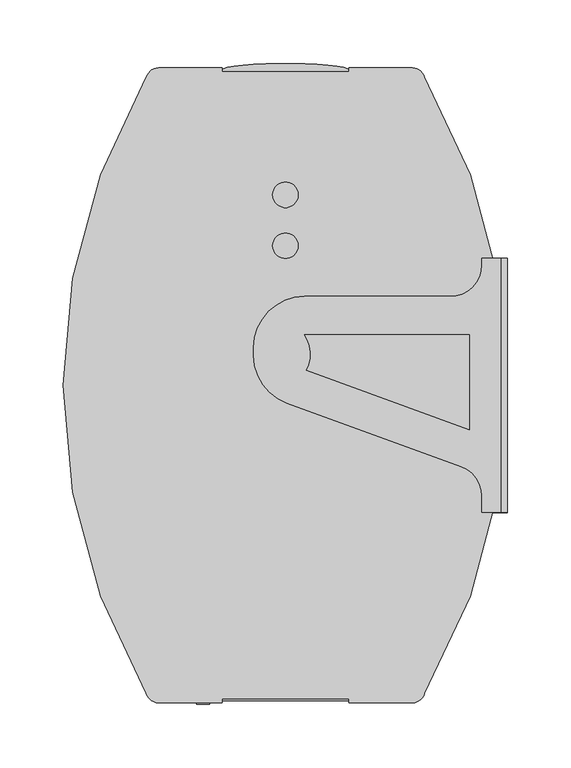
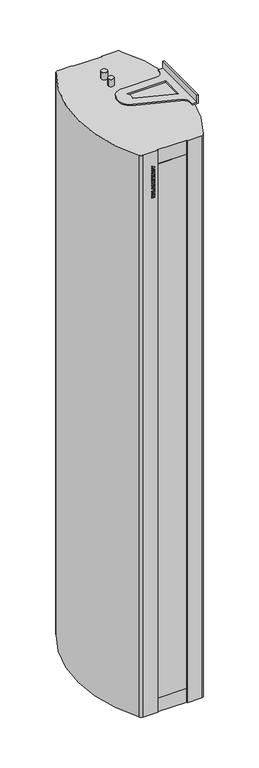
"""IFC4 building model written with IfcOpenShell, lengths in millimetres: proxy geometry, ИЗТТ_Завеса дизайнерская_Водяная : KVC-S20W35-31."""

import ifcopenshell
import ifcopenshell.guid

model = None  # the IFC model being written
_history = None  # IfcOwnerHistory: only IFC2X3 demands one
_inside = {}  # id of a spatial element -> (the spatial element, [elements in it])
_under = {}  # id of a project, library or spatial element -> (it, [spatial elements below it])
_declared = {}  # id of a project -> (the project, [libraries it declares])
_typed = {}  # id of a type object -> (the type object, [elements of that type])
_made_of = {}  # id of a material, layer set ... -> (it, [elements and type objects made of it])


def new_model(schema):
    """Start an empty IFC model of exactly this schema.

    Asked for "IFC4X3", IfcOpenShell would pick the latest addendum, in which some entities
    have other attributes; the version numbers below select the first issue.
    IFC2X3 requires an IfcOwnerHistory on every rooted entity: one is made here for all.
    """
    global model, _history
    if schema == "IFC4X3":
        model = ifcopenshell.file(schema_version=(4, 3, 0, 0))
    else:
        model = ifcopenshell.file(schema=schema)
    _inside.clear()
    _under.clear()
    _declared.clear()
    _typed.clear()
    _made_of.clear()
    _history = None
    if model.schema == "IFC2X3":
        org = make("IfcOrganization", Name="unknown")
        user = make(
            "IfcPersonAndOrganization",
            ThePerson=make("IfcPerson", FamilyName="unknown"),
            TheOrganization=org,
        )
        app = make(
            "IfcApplication",
            ApplicationDeveloper=org,
            Version="unknown",
            ApplicationFullName="unknown",
            ApplicationIdentifier="unknown",
        )
        _history = make(
            "IfcOwnerHistory",
            OwningUser=user,
            OwningApplication=app,
            ChangeAction="ADDED",
            CreationDate=0,
        )
    return model


def make(cls, **values):
    """One entity of the class cls with the attributes given. An attribute that is None is left unset."""
    return model.create_entity(
        cls, **{name: value for name, value in values.items() if value is not None}
    )


def rooted(cls, **values):
    """An entity with a GlobalId (a new one), such as an element, a storey or a relation."""
    return make(cls, GlobalId=ifcopenshell.guid.new(), OwnerHistory=_history, **values)


def si_unit(unit_type, name, prefix=None):
    """IfcSIUnit, for example si_unit("LENGTHUNIT", "METRE", prefix="MILLI")."""
    return make("IfcSIUnit", UnitType=unit_type, Prefix=prefix, Name=name)


def assignment(units):
    """IfcUnitAssignment: the units of a project."""
    return None if units is None else make("IfcUnitAssignment", Units=units)


def point(xyz):
    """IfcCartesianPoint."""
    return None if xyz is None else make("IfcCartesianPoint", Coordinates=xyz)


def direction(xyz):
    """IfcDirection."""
    return None if xyz is None else make("IfcDirection", DirectionRatios=xyz)


def frame(location, z_axis=None, x_axis=None):
    """IfcAxis2Placement3D, a coordinate frame: its origin and axes. An axis left out is left unset."""
    return make(
        "IfcAxis2Placement3D",
        Location=point(location),
        Axis=direction(z_axis),
        RefDirection=direction(x_axis),
    )


def origin():
    """The frame at (0, 0, 0) with its axes left unset."""
    return frame((0.0, 0.0, 0.0))


def place(relative_to, where):
    """IfcLocalPlacement: puts the frame where relative to a parent placement (None: the world)."""
    return make(
        "IfcLocalPlacement", PlacementRelTo=relative_to, RelativePlacement=where
    )


def context(
    kind, dimensions, precision=None, world=None, true_north=None, identifier=None
):
    """IfcGeometricRepresentationContext, for example the 3D "Model" context."""
    return make(
        "IfcGeometricRepresentationContext",
        ContextIdentifier=identifier,
        ContextType=kind,
        CoordinateSpaceDimension=dimensions,
        Precision=precision,
        WorldCoordinateSystem=world,
        TrueNorth=true_north,
    )


def project(units=None, contexts=None):
    """IfcProject with its units and contexts."""
    return rooted(
        "IfcProject",
        Name="project",
        RepresentationContexts=contexts,
        UnitsInContext=assignment(units),
    )


def spatial(cls, under=None, at=None, **own):
    """A site, building, storey or space (cls), placed at a placement, below another one or the project."""
    s = rooted(cls, ObjectPlacement=at, **own)
    if under is not None:
        _under.setdefault(under.id(), (under, []))[1].append(s)
    return s


def polyline(points):
    """IfcPolyline through the points."""
    return make("IfcPolyline", Points=[point(p) for p in points])


def circle_curve(where, radius):
    """IfcCircle in the frame where."""
    return make("IfcCircle", Position=where, Radius=radius)


def ellipse_curve(where, semi_axis1, semi_axis2):
    """IfcEllipse in the frame where."""
    return make(
        "IfcEllipse", Position=where, SemiAxis1=semi_axis1, SemiAxis2=semi_axis2
    )


def trimmed(basis, trim1, trim2, sense, master):
    """IfcTrimmedCurve: the piece of a basis curve between two trims."""
    return make(
        "IfcTrimmedCurve",
        BasisCurve=basis,
        Trim1=trim1,
        Trim2=trim2,
        SenseAgreement=sense,
        MasterRepresentation=master,
    )


def outline(outer, holes=None, kind="AREA"):
    """IfcArbitraryClosedProfileDef: a profile drawn as a closed curve; with holes, ...WithVoids."""
    if holes is None:
        return make("IfcArbitraryClosedProfileDef", ProfileType=kind, OuterCurve=outer)
    return make(
        "IfcArbitraryProfileDefWithVoids",
        ProfileType=kind,
        OuterCurve=outer,
        InnerCurves=holes,
    )


def extrude(swept, where, along, depth):
    """IfcExtrudedAreaSolid: the profile swept, set in the frame where, extruded along a direction by depth."""
    return make(
        "IfcExtrudedAreaSolid",
        SweptArea=swept,
        Position=where,
        ExtrudedDirection=direction(along),
        Depth=depth,
    )


def faces_of(points, faces, orient=None, outer=None):
    """IfcFace entities. A face is a list of loops; a loop is a list of indices into points, from 0.

    orient and outer hold one flag for each loop. By default every Orientation is true, the
    first loop of a face is its IfcFaceOuterBound and the others are IfcFaceBound.
    """
    made = []
    for i, loops in enumerate(faces):
        bounds = []
        for j, loop in enumerate(loops):
            is_outer = j == 0 if outer is None else outer[i][j]
            bounds.append(
                make(
                    "IfcFaceOuterBound" if is_outer else "IfcFaceBound",
                    Bound=make("IfcPolyLoop", Polygon=[points[k] for k in loop]),
                    Orientation=True if orient is None else orient[i][j],
                )
            )
        made.append(make("IfcFace", Bounds=bounds))
    return made


def faceted_brep(points, faces, orient=None, outer=None, voids=None):
    """IfcFacetedBrep: a solid bounded by flat faces; with voids (closed shells), ...WithVoids."""
    shared = [point(p) for p in points]
    hull = make("IfcClosedShell", CfsFaces=faces_of(shared, faces, orient, outer))
    if voids is None:
        return make("IfcFacetedBrep", Outer=hull)
    return make(
        "IfcFacetedBrepWithVoids",
        Outer=hull,
        Voids=[
            make(cls, CfsFaces=faces_of(shared, fs, o, b)) for cls, fs, o, b in voids
        ],
    )


def shape(context_of_items, identifier, shape_type, items):
    """IfcShapeRepresentation: the items that make up one representation, for example the "Body"."""
    return make(
        "IfcShapeRepresentation",
        ContextOfItems=context_of_items,
        RepresentationIdentifier=identifier,
        RepresentationType=shape_type,
        Items=items,
    )


def source(mapping_origin, context_of_items, identifier, shape_type, items):
    """IfcRepresentationMap: a shape defined once, which mapped items show again and again."""
    return make(
        "IfcRepresentationMap",
        MappingOrigin=mapping_origin,
        MappedRepresentation=shape(context_of_items, identifier, shape_type, items),
    )


def transform(
    local_origin,
    x_axis=None,
    y_axis=None,
    z_axis=None,
    scale=None,
    scale2=None,
    scale3=None,
    uniform=True,
):
    """IfcCartesianTransformationOperator3D, or its non-uniform kind. x_axis, y_axis, z_axis: its Axis1, 2, 3."""
    if uniform:
        return make(
            "IfcCartesianTransformationOperator3D",
            Axis1=direction(x_axis),
            Axis2=direction(y_axis),
            LocalOrigin=point(local_origin),
            Scale=scale,
            Axis3=direction(z_axis),
        )
    return make(
        "IfcCartesianTransformationOperator3DnonUniform",
        Axis1=direction(x_axis),
        Axis2=direction(y_axis),
        LocalOrigin=point(local_origin),
        Scale=scale,
        Axis3=direction(z_axis),
        Scale2=scale2,
        Scale3=scale3,
    )


def mapped(mapping_source, mapping_target):
    """IfcMappedItem: shows the shape of a source again, moved by a transform."""
    return make(
        "IfcMappedItem", MappingSource=mapping_source, MappingTarget=mapping_target
    )


def made_of(thing, what):
    """Note that an element or type object is made of a material, layer set ...; save() writes the relation."""
    if what is not None:
        _made_of.setdefault(what.id(), (what, []))[1].append(thing)
    return thing


def element(
    cls,
    number,
    at=None,
    inside=None,
    cuts=None,
    type_object=None,
    material=None,
    context=None,
    identifier="Body",
    shape_type=None,
    held_by="IfcProductDefinitionShape",
    body=None,
    shapes=None,
    **own,
):
    """One element of the class cls, such as IfcWall. Its Tag is "e" and its number.

    at: its placement. inside: the storey or other place that contains it. cuts: it is an
    opening in that element (IfcRelVoidsElement). A single representation is given by context,
    identifier, shape_type and body (its items); several are given by shapes. held_by: the class
    of the entity that holds the representations. save() writes the other relations.
    """
    e = rooted(cls, Tag="e%d" % number, ObjectPlacement=at, **own)
    if body is not None:
        shapes = [shape(context, identifier, shape_type, body)]
    if shapes is not None:
        e.Representation = make(held_by, Representations=shapes)
    if inside is not None:
        _inside.setdefault(inside.id(), (inside, []))[1].append(e)
    if cuts is not None:
        rooted(
            "IfcRelVoidsElement", RelatingBuildingElement=cuts, RelatedOpeningElement=e
        )
    if type_object is not None:
        _typed.setdefault(type_object.id(), (type_object, []))[1].append(e)
    return made_of(e, material)


def aggregate(whole, parts):
    """IfcRelAggregates: a whole, such as a stair, and the parts it consists of."""
    return rooted("IfcRelAggregates", RelatingObject=whole, RelatedObjects=parts)


def save(model, path):
    """Write the relations noted so far, then the file.

    IfcRelAggregates (storeys below a building ...), IfcRelContainedInSpatialStructure (elements
    in a storey), IfcRelDefinesByType, IfcRelAssociatesMaterial and IfcRelDeclares: one each for
    every whole, place, type object, material and project.
    """
    for whole, parts in _under.values():
        aggregate(whole, parts)
    for where, things in _inside.values():
        rooted(
            "IfcRelContainedInSpatialStructure",
            RelatedElements=things,
            RelatingStructure=where,
        )
    for kind, things in _typed.values():
        rooted("IfcRelDefinesByType", RelatedObjects=things, RelatingType=kind)
    for what, things in _made_of.values():
        rooted("IfcRelAssociatesMaterial", RelatedObjects=things, RelatingMaterial=what)
    for by, libraries in _declared.values():
        rooted("IfcRelDeclares", RelatingContext=by, RelatedDefinitions=libraries)
    model.write(path)


def plane_surface(at):
    """IfcPlane: the flat surface through the origin of the frame at, square to its z axis."""
    return make("IfcPlane", Position=at)


def cylinder_surface(at, radius):
    """IfcCylindricalSurface: all points at the distance radius from the z axis of the frame at."""
    return make("IfcCylindricalSurface", Position=at, Radius=radius)


def revolved_surface(curve, axis_point, axis_direction):
    """IfcSurfaceOfRevolution: the curve turned about the line through axis_point along axis_direction."""
    return make(
        "IfcSurfaceOfRevolution",
        SweptCurve=make("IfcArbitraryOpenProfileDef", ProfileType="CURVE", Curve=curve),
        AxisPosition=make("IfcAxis1Placement", Location=point(axis_point), Axis=direction(axis_direction)),
    )


def extruded_surface(curve, direction_of_extrusion, depth):
    """IfcSurfaceOfLinearExtrusion: the curve pushed along a direction by depth."""
    return make(
        "IfcSurfaceOfLinearExtrusion",
        SweptCurve=make("IfcArbitraryOpenProfileDef", ProfileType="CURVE", Curve=curve),
        ExtrudedDirection=direction(direction_of_extrusion),
        Depth=depth,
    )


def advanced_brep(points, edges, surfaces, faces):
    """IfcAdvancedBrep: a solid bounded by faces that lie on surfaces and meet in shared edges.

    An edge is (start, end): straight between two places in points (the first is 0);
    or (start, end, curve); or (start, end, curve, False) where it runs against its curve.
    A face is (place in surfaces, loops), or (place, loops, False) where it looks against
    its surface's normal. A loop lists edges by number (the first is 1), with a minus sign
    where the edge is run from its end to its start. The first loop is the outer one.
    """
    corners = [point(p) for p in points]
    vertices = [make("IfcVertexPoint", VertexGeometry=c) for c in corners]
    made = []
    for start, end, *more in edges:
        made.append(
            make(
                "IfcEdgeCurve",
                EdgeStart=vertices[start],
                EdgeEnd=vertices[end],
                EdgeGeometry=more[0] if more else make("IfcPolyline", Points=[corners[start], corners[end]]),
                SameSense=more[1] if len(more) > 1 else True,
            )
        )
    hull = []
    for where, loops, *sense in faces:
        bounds = []
        for j, loop in enumerate(loops):
            ring = [make("IfcOrientedEdge", EdgeElement=made[abs(k) - 1], Orientation=k > 0) for k in loop]
            bounds.append(
                make(
                    "IfcFaceOuterBound" if j == 0 else "IfcFaceBound",
                    Bound=make("IfcEdgeLoop", EdgeList=ring),
                    Orientation=True,
                )
            )
        hull.append(make("IfcAdvancedFace", Bounds=bounds, FaceSurface=surfaces[where], SameSense=sense[0] if sense else True))
    return make("IfcAdvancedBrep", Outer=make("IfcClosedShell", CfsFaces=hull))


def mechanical_equipment_543ff3b5(model_context):
    return source(origin(), model_context, "Body", "SolidModel", [
        advanced_brep(
        [(155.0, 100.0, -5.0), (170.0, 100.0, -5.0), (170.0, -100.0, -5.0), (155.0, -100.0, -5.0), (155.0, -87.5051885, -5.0), (138.5505036, -64.0128729, -5.0), (1.3191943, -14.0647611, -5.0), (-25.0, 23.5229437, -5.0), (-25.0, 30.0, -5.0), (15.0, 70.0, -5.0), (130.0, 70.0, -5.0), (155.0, 95.0, -5.0), (145.0, -34.8821335, -5.0), (145.0, 40.0, -5.0), (15.0, 40.0, -5.0), (16.5981063, 11.8523338, -5.0), (155.0, 100.0, 0.0), (155.0, 95.0, 0.0), (130.0, 70.0, 0.0), (15.0, 70.0, 0.0), (-25.0, 30.0, 0.0), (-25.0, 23.5229437, 0.0), (1.3191943, -14.0647611, 0.0), (138.5505036, -64.0128729, 0.0), (155.0, -87.5051885, 0.0), (155.0, -100.0, 0.0), (175.0, -100.0, 0.0), (175.0, 100.0, 0.0), (145.0, -34.8821335, 0.0), (16.5981063, 11.8523338, 0.0), (15.0, 40.0, 0.0), (145.0, 40.0, 0.0), (175.0, 100.0, -30.0), (170.0, 100.0, -30.0), (170.0, -100.0, -30.0), (175.0, -100.0, -30.0)],
        [
            (0, 1),
            (1, 2),
            (2, 3),
            (3, 4),
            (4, 5, circle_curve(frame((130.0, -87.5051885, -5.0), z_axis=(0.0, 0.0, 1.0), x_axis=(1.0, 0.0, 0.0)), 25.0)),
            (5, 6),
            (6, 7, circle_curve(frame((15.0, 23.5229437, -5.0), z_axis=(0.0, 0.0, -1.0), x_axis=(1.0, 0.0, 0.0)), 40.0)),
            (7, 8),
            (8, 9, circle_curve(frame((15.0, 30.0, -5.0), z_axis=(0.0, 0.0, -1.0), x_axis=(1.0, 0.0, 0.0)), 40.0)),
            (9, 10),
            (10, 11, circle_curve(frame((130.0, 95.0, -5.0), z_axis=(0.0, 0.0, 1.0), x_axis=(1.0, 0.0, 0.0)), 25.0)),
            (11, 0),
            (12, 13),
            (13, 14),
            (14, 15, circle_curve(frame((-7.1937545, 24.6207318, -5.0), z_axis=(0.0, 0.0, -1.0), x_axis=(1.0, 0.0, 0.0)), 27.0015672)),
            (15, 12),
            (16, 17),
            (17, 18, circle_curve(frame((130.0, 95.0, 0.0), z_axis=(0.0, 0.0, -1.0), x_axis=(1.0, 0.0, 0.0)), 25.0)),
            (18, 19),
            (19, 20, circle_curve(frame((15.0, 30.0, 0.0), z_axis=(0.0, 0.0, 1.0), x_axis=(1.0, 0.0, 0.0)), 40.0)),
            (20, 21),
            (21, 22, circle_curve(frame((15.0, 23.5229437, 0.0), z_axis=(0.0, 0.0, 1.0), x_axis=(1.0, 0.0, 0.0)), 40.0)),
            (22, 23),
            (23, 24, circle_curve(frame((130.0, -87.5051885, 0.0), z_axis=(0.0, 0.0, -1.0), x_axis=(1.0, 0.0, 0.0)), 25.0)),
            (24, 25),
            (25, 26),
            (26, 27),
            (27, 16),
            (28, 29),
            (29, 30, circle_curve(frame((-7.1937545, 24.6207318, 0.0), z_axis=(0.0, 0.0, 1.0), x_axis=(1.0, 0.0, 0.0)), 27.0015672)),
            (30, 31),
            (31, 28),
            (27, 32),
            (32, 33),
            (33, 1),
            (0, 16),
            (7, 21),
            (20, 8),
            (2, 34),
            (34, 35),
            (35, 26),
            (25, 3),
            (35, 32),
            (11, 17),
            (10, 18),
            (9, 19),
            (6, 22),
            (5, 23),
            (4, 24),
            (15, 29),
            (28, 12),
            (14, 30),
            (13, 31),
            (34, 33),
        ],
        [
            plane_surface(frame((-25.0, 100.0, -5.0), z_axis=(0.0, 0.0, -1.0), x_axis=(-1.0, 0.0, 0.0))),
            plane_surface(frame((-25.0, 100.0, 0.0), z_axis=(0.0, 0.0, 1.0), x_axis=(1.0, 0.0, 0.0))),
            plane_surface(frame((175.0, 100.0, -5.0), z_axis=(0.0, 1.0, 0.0), x_axis=(0.0, 0.0, 1.0))),
            plane_surface(frame((-25.0, 30.0, -5.0), z_axis=(-1.0, 0.0, 0.0), x_axis=(0.0, 0.0, 1.0))),
            plane_surface(frame((155.0, -100.0, -5.0), z_axis=(0.0, -1.0, 0.0), x_axis=(0.0, 0.0, 1.0))),
            plane_surface(frame((175.0, -100.0, -5.0), z_axis=(1.0, 0.0, 0.0), x_axis=(0.0, 0.0, 1.0))),
            plane_surface(frame((155.0, 100.0, -5.0), z_axis=(-1.0, 0.0, 0.0), x_axis=(0.0, 0.0, 1.0))),
            revolved_surface(polyline([(155.0, 95.0, 0.0), (155.0, 95.0, -5.0)]), (130.0, 95.0, 0.0), (0.0, 0.0, 1.0)),
            plane_surface(frame((130.0, 70.0, -5.0), z_axis=(0.0, 1.0, 0.0), x_axis=(0.0, 0.0, 1.0))),
            cylinder_surface(frame((15.0, 30.0, 0.0), z_axis=(0.0, 0.0, -1.0), x_axis=(1.0, 0.0, 0.0)), 40.0),
            cylinder_surface(frame((15.0, 23.5229437, 0.0), z_axis=(0.0, 0.0, -1.0), x_axis=(1.0, 0.0, 0.0)), 40.0),
            plane_surface(frame((1.3191943, -14.0647611, -5.0), z_axis=(-0.3420201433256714, -0.9396926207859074, 0.0), x_axis=(0.0, 0.0, 1.0))),
            revolved_surface(polyline([(155.0, -87.5051885, 0.0), (155.0, -87.5051885, -5.0)]), (130.0, -87.5051885, 0.0), (0.0, 0.0, 1.0)),
            plane_surface(frame((155.0, -87.5051885, -5.0), z_axis=(-1.0, 0.0, 0.0), x_axis=(0.0, 0.0, 1.0))),
            plane_surface(frame((145.0, -34.8821335, -5.0), z_axis=(0.3420201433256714, 0.9396926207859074, 0.0), x_axis=(0.0, 0.0, 1.0))),
            cylinder_surface(frame((-7.1937545, 24.6207318, 0.0), z_axis=(0.0, 0.0, -1.0), x_axis=(1.0, 0.0, 0.0)), 27.0015672),
            plane_surface(frame((15.0, 40.0, -5.0), z_axis=(0.0, -1.0, 0.0), x_axis=(0.0, 0.0, 1.0))),
            plane_surface(frame((145.0, 40.0, -5.0), z_axis=(-1.0, 0.0, 0.0), x_axis=(0.0, 0.0, 1.0))),
            plane_surface(frame((170.0, 126.8049179, -30.0), z_axis=(0.0, 0.0, -1.0), x_axis=(0.0, -1.0, 0.0))),
            plane_surface(frame((170.0, 100.0, -30.0), z_axis=(-1.0, 0.0, 0.0), x_axis=(0.0, 0.0, 1.0))),
        ],
        [
            (0, [[1, 2, 3, 4, 5, 6, 7, 8, 9, 10, 11, 12], [13, 14, 15, 16]]),
            (1, [[17, 18, 19, 20, 21, 22, 23, 24, 25, 26, 27, 28], [29, 30, 31, 32]]),
            (2, [[-28, 33, 34, 35, -1, 36]]),
            (3, [[37, -21, 38, -8]]),
            (4, [[-3, 39, 40, 41, -26, 42]]),
            (5, [[43, -33, -27, -41]]),
            (6, [[44, -17, -36, -12]]),
            (7, [[45, -18, -44, -11]]),
            (8, [[46, -19, -45, -10]]),
            (9, [[-38, -20, -46, -9]]),
            (10, [[47, -22, -37, -7]]),
            (11, [[48, -23, -47, -6]]),
            (12, [[49, -24, -48, -5]]),
            (13, [[-42, -25, -49, -4]]),
            (14, [[50, -29, 51, -16]]),
            (15, [[52, -30, -50, -15]]),
            (16, [[53, -31, -52, -14]]),
            (17, [[-51, -32, -53, -13]]),
            (18, [[-34, -43, -40, 54]]),
            (19, [[-39, -2, -35, -54]]),
        ],
    ),
        advanced_brep(
        [(155.0, 100.0, 2019.0), (155.0, 95.0, 2019.0), (130.0, 70.0, 2019.0), (15.0, 70.0, 2019.0), (-25.0, 30.0, 2019.0), (-25.0, 23.5229437, 2019.0), (1.3191943, -14.0647611, 2019.0), (138.5505036, -64.0128729, 2019.0), (155.0, -87.5051885, 2019.0), (155.0, -100.0, 2019.0), (170.0, -100.0, 2019.0), (170.0, 100.0, 2019.0), (145.0, -34.8821335, 2019.0), (16.5981063, 11.8523338, 2019.0), (15.0, 40.0, 2019.0), (145.0, 40.0, 2019.0), (155.0, 100.0, 2014.0), (175.0, 100.0, 2014.0), (175.0, -100.0, 2014.0), (155.0, -100.0, 2014.0), (155.0, -87.5051885, 2014.0), (138.5505036, -64.0128729, 2014.0), (1.3191943, -14.0647611, 2014.0), (-25.0, 23.5229437, 2014.0), (-25.0, 30.0, 2014.0), (15.0, 70.0, 2014.0), (130.0, 70.0, 2014.0), (155.0, 95.0, 2014.0), (145.0, -34.8821335, 2014.0), (145.0, 40.0, 2014.0), (15.0, 40.0, 2014.0), (16.5981063, 11.8523338, 2014.0), (170.0, 100.0, 2044.0), (175.0, 100.0, 2044.0), (175.0, -100.0, 2044.0), (170.0, -100.0, 2044.0)],
        [
            (0, 1),
            (1, 2, circle_curve(frame((130.0, 95.0, 2019.0), z_axis=(0.0, 0.0, -1.0), x_axis=(1.0, 0.0, 0.0)), 25.0)),
            (2, 3),
            (3, 4, circle_curve(frame((15.0, 30.0, 2019.0), z_axis=(0.0, 0.0, 1.0), x_axis=(1.0, 0.0, 0.0)), 40.0)),
            (4, 5),
            (5, 6, circle_curve(frame((15.0, 23.5229437, 2019.0), z_axis=(0.0, 0.0, 1.0), x_axis=(1.0, 0.0, 0.0)), 40.0)),
            (6, 7),
            (7, 8, circle_curve(frame((130.0, -87.5051885, 2019.0), z_axis=(0.0, 0.0, -1.0), x_axis=(1.0, 0.0, 0.0)), 25.0)),
            (8, 9),
            (9, 10),
            (10, 11),
            (11, 0),
            (12, 13),
            (13, 14, circle_curve(frame((-7.1937545, 24.6207318, 2019.0), z_axis=(0.0, 0.0, 1.0), x_axis=(1.0, 0.0, 0.0)), 27.0015672)),
            (14, 15),
            (15, 12),
            (16, 17),
            (17, 18),
            (18, 19),
            (19, 20),
            (20, 21, circle_curve(frame((130.0, -87.5051885, 2014.0), z_axis=(0.0, 0.0, 1.0), x_axis=(1.0, 0.0, 0.0)), 25.0)),
            (21, 22),
            (22, 23, circle_curve(frame((15.0, 23.5229437, 2014.0), z_axis=(0.0, 0.0, -1.0), x_axis=(1.0, 0.0, 0.0)), 40.0)),
            (23, 24),
            (24, 25, circle_curve(frame((15.0, 30.0, 2014.0), z_axis=(0.0, 0.0, -1.0), x_axis=(1.0, 0.0, 0.0)), 40.0)),
            (25, 26),
            (26, 27, circle_curve(frame((130.0, 95.0, 2014.0), z_axis=(0.0, 0.0, 1.0), x_axis=(1.0, 0.0, 0.0)), 25.0)),
            (27, 16),
            (28, 29),
            (29, 30),
            (30, 31, circle_curve(frame((-7.1937545, 24.6207318, 2014.0), z_axis=(0.0, 0.0, -1.0), x_axis=(1.0, 0.0, 0.0)), 27.0015672)),
            (31, 28),
            (16, 0),
            (11, 32),
            (32, 33),
            (33, 17),
            (4, 24),
            (23, 5),
            (9, 19),
            (18, 34),
            (34, 35),
            (35, 10),
            (33, 34),
            (27, 1),
            (26, 2),
            (25, 3),
            (22, 6),
            (21, 7),
            (20, 8),
            (12, 28),
            (31, 13),
            (30, 14),
            (29, 15),
            (32, 35),
        ],
        [
            plane_surface(frame((-25.0, 100.0, 2019.0), z_axis=(0.0, 0.0, 1.0), x_axis=(-1.0, 0.0, 0.0))),
            plane_surface(frame((-25.0, 100.0, 2014.0), z_axis=(0.0, 0.0, -1.0), x_axis=(1.0, 0.0, 0.0))),
            plane_surface(frame((175.0, 100.0, 2019.0), z_axis=(0.0, 1.0, 0.0), x_axis=(0.0, 0.0, -1.0))),
            plane_surface(frame((-25.0, 30.0, 2019.0), z_axis=(-1.0, 0.0, 0.0), x_axis=(0.0, 0.0, -1.0))),
            plane_surface(frame((155.0, -100.0, 2019.0), z_axis=(0.0, -1.0, 0.0), x_axis=(0.0, 0.0, -1.0))),
            plane_surface(frame((175.0, -100.0, 2019.0), z_axis=(1.0, 0.0, 0.0), x_axis=(0.0, 0.0, -1.0))),
            plane_surface(frame((155.0, 100.0, 2019.0), z_axis=(-1.0, 0.0, 0.0), x_axis=(0.0, 0.0, -1.0))),
            revolved_surface(polyline([(155.0, 95.0, 2014.0), (155.0, 95.0, 2019.0)]), (130.0, 95.0, 2014.0), (0.0, 0.0, -1.0)),
            plane_surface(frame((130.0, 70.0, 2019.0), z_axis=(0.0, 1.0, 0.0), x_axis=(0.0, 0.0, -1.0))),
            cylinder_surface(frame((15.0, 30.0, 2014.0), z_axis=(0.0, 0.0, 1.0), x_axis=(1.0, 0.0, 0.0)), 40.0),
            cylinder_surface(frame((15.0, 23.5229437, 2014.0), z_axis=(0.0, 0.0, 1.0), x_axis=(1.0, 0.0, 0.0)), 40.0),
            plane_surface(frame((1.3191943, -14.0647611, 2019.0), z_axis=(-0.3420201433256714, -0.9396926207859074, 0.0), x_axis=(0.0, 0.0, -1.0))),
            revolved_surface(polyline([(155.0, -87.5051885, 2014.0), (155.0, -87.5051885, 2019.0)]), (130.0, -87.5051885, 2014.0), (0.0, 0.0, -1.0)),
            plane_surface(frame((155.0, -87.5051885, 2019.0), z_axis=(-1.0, 0.0, 0.0), x_axis=(0.0, 0.0, -1.0))),
            plane_surface(frame((145.0, -34.8821335, 2019.0), z_axis=(0.3420201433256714, 0.9396926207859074, 0.0), x_axis=(0.0, 0.0, -1.0))),
            cylinder_surface(frame((-7.1937545, 24.6207318, 2014.0), z_axis=(0.0, 0.0, 1.0), x_axis=(1.0, 0.0, 0.0)), 27.0015672),
            plane_surface(frame((15.0, 40.0, 2019.0), z_axis=(0.0, -1.0, 0.0), x_axis=(0.0, 0.0, -1.0))),
            plane_surface(frame((145.0, 40.0, 2019.0), z_axis=(-1.0, 0.0, 0.0), x_axis=(0.0, 0.0, -1.0))),
            plane_surface(frame((170.0, 126.8049179, 2044.0), z_axis=(0.0, 0.0, 1.0), x_axis=(0.0, -1.0, 0.0))),
            plane_surface(frame((170.0, 100.0, 2044.0), z_axis=(-1.0, 0.0, 0.0), x_axis=(0.0, 0.0, -1.0))),
        ],
        [
            (0, [[1, 2, 3, 4, 5, 6, 7, 8, 9, 10, 11, 12], [13, 14, 15, 16]]),
            (1, [[17, 18, 19, 20, 21, 22, 23, 24, 25, 26, 27, 28], [29, 30, 31, 32]]),
            (2, [[33, -12, 34, 35, 36, -17]]),
            (3, [[-5, 37, -24, 38]]),
            (4, [[39, -19, 40, 41, 42, -10]]),
            (5, [[-40, -18, -36, 43]]),
            (6, [[-1, -33, -28, 44]]),
            (7, [[-2, -44, -27, 45]]),
            (8, [[-3, -45, -26, 46]]),
            (9, [[-4, -46, -25, -37]]),
            (10, [[-6, -38, -23, 47]]),
            (11, [[-7, -47, -22, 48]]),
            (12, [[-8, -48, -21, 49]]),
            (13, [[-9, -49, -20, -39]]),
            (14, [[-13, 50, -32, 51]]),
            (15, [[-14, -51, -31, 52]]),
            (16, [[-15, -52, -30, 53]]),
            (17, [[-16, -53, -29, -50]]),
            (18, [[54, -41, -43, -35]]),
            (19, [[-54, -34, -11, -42]]),
        ],
    ),
        extrude(outline(polyline([(1850.0784314, -70.0), (1850.0784314, -60.0), (1853.2156863, -60.0), (1853.2156863, -61.7647059), (1854.9865196, -63.7745098), (1856.8186275, -60.0), (1860.6666667, -60.0), (1857.192402, -66.2775735), (1860.4705882, -70.0), (1856.1997549, -70.0), (1853.2156863, -66.2224265), (1853.2156863, -70.0), (1850.0784314, -70.0)])), frame((0.0, -251.0, 0.0), z_axis=(0.0, 1.0, 0.0), x_axis=(0.0, 0.0, 1.0)), (0.0, 0.0, 1.0), 1.0),
        extrude(outline(polyline([(1867.6642157, -61.5686275), (1868.1176471, -60.0), (1871.4509804, -60.0), (1868.0778186, -70.0), (1864.0398284, -70.0), (1860.6666667, -60.0), (1864.0, -60.0), (1864.4319853, -61.5686275), (1867.6642157, -61.5686275)]), holes=[polyline([(1867.0698529, -63.9215686), (1865.0814951, -63.9215686), (1866.0588235, -67.4540441), (1867.0698529, -63.9215686)])]), frame((0.0, -251.0, 0.0), z_axis=(0.0, 1.0, 0.0), x_axis=(0.0, 0.0, 1.0)), (0.0, 0.0, 1.0), 1.0),
        extrude(outline(polyline([(1872.4313725, -70.0), (1872.4313725, -60.0), (1880.2745098, -60.0), (1880.2745098, -62.3529412), (1875.5686275, -62.3529412), (1875.5686275, -70.0), (1872.4313725, -70.0)])), frame((0.0, -251.0, 0.0), z_axis=(0.0, 1.0, 0.0), x_axis=(0.0, 0.0, 1.0)), (0.0, 0.0, 1.0), 1.0),
        extrude(outline(polyline([(1887.6642157, -61.5686275), (1888.1176471, -60.0), (1891.4509804, -60.0), (1888.0778186, -70.0), (1884.0398284, -70.0), (1880.6666667, -60.0), (1884.0, -60.0), (1884.4319853, -61.5686275), (1887.6642157, -61.5686275)]), holes=[polyline([(1887.0698529, -63.9215686), (1885.0814951, -63.9215686), (1886.0588235, -67.4540441), (1887.0698529, -63.9215686)])]), frame((0.0, -251.0, 0.0), z_axis=(0.0, 1.0, 0.0), x_axis=(0.0, 0.0, 1.0)), (0.0, 0.0, 1.0), 1.0),
        extrude(outline(polyline([(1891.8431373, -63.3394608), (1892.9491422, -60.8026961), (1896.4601716, -59.8039216), (1898.8560049, -60.2297794), (1900.3342525, -61.4813113), (1900.8627451, -63.28125), (1900.4675245, -64.7870711), (1899.2022059, -65.9129902), (1896.3223039, -66.8106618), (1896.1905637, -68.4313725), (1896.9641544, -68.1050858), (1897.3333333, -67.0588235), (1900.4705882, -67.2395833), (1899.2925858, -69.4883578), (1896.4172794, -70.1960784), (1893.9969363, -69.8039216), (1892.6749387, -68.7285539), (1892.2352941, -67.276348), (1893.1023284, -65.3492647), (1895.9761029, -64.1237745), (1897.7254902, -62.8186275), (1897.4114583, -62.0818015), (1896.5183824, -61.7647059), (1895.3204657, -62.3958333), (1894.9803922, -63.5294118), (1891.8431373, -63.3394608)])), frame((0.0, -251.0, 0.0), z_axis=(0.0, 1.0, 0.0), x_axis=(0.0, 0.0, 1.0)), (0.0, 0.0, 1.0), 1.0),
        extrude(outline(polyline([(1902.4313725, -70.0), (1902.4313725, -60.0), (1905.5686275, -60.0), (1905.5686275, -64.1176471), (1908.9019608, -64.1176471), (1908.9019608, -60.0), (1912.0392157, -60.0), (1912.0392157, -70.0), (1908.9019608, -70.0), (1908.9019608, -66.4705882), (1905.5686275, -66.4705882), (1905.5686275, -70.0), (1902.4313725, -70.0)])), frame((0.0, -251.0, 0.0), z_axis=(0.0, 1.0, 0.0), x_axis=(0.0, 0.0, 1.0)), (0.0, 0.0, 1.0), 1.0),
        extrude(outline(polyline([(1914.0, -70.0), (1914.0, -60.0), (1916.9411765, -60.0), (1916.9411765, -65.4901961), (1920.6666667, -60.0), (1923.6078431, -60.0), (1923.6078431, -70.0), (1920.6666667, -70.0), (1920.6666667, -64.4730392), (1916.9197304, -70.0), (1914.0, -70.0)])), frame((0.0, -251.0, 0.0), z_axis=(0.0, 1.0, 0.0), x_axis=(0.0, 0.0, 1.0)), (0.0, 0.0, 1.0), 1.0),
        extrude(outline(polyline([(-60.0, -251.0), (-70.0, -251.0), (-70.0, -250.0), (-60.0, -250.0), (-60.0, -251.0)])), frame((0.0, 0.0, 1925.7647059), z_axis=(0.0, 0.0, 1.0), x_axis=(1.0, 0.0, 0.0)), (0.0, 0.0, 1.0), 3.1372549),
        extrude(outline(polyline([(1931.0588235, -70.0), (1931.0588235, -60.0), (1934.1960784, -60.0), (1934.1960784, -61.7647059), (1935.9669118, -63.7745098), (1937.7990196, -60.0), (1941.6470588, -60.0), (1938.1727941, -66.2775735), (1941.4509804, -70.0), (1937.1801471, -70.0), (1934.1960784, -66.2224265), (1934.1960784, -70.0), (1931.0588235, -70.0)])), frame((0.0, -251.0, 0.0), z_axis=(0.0, 1.0, 0.0), x_axis=(0.0, 0.0, 1.0)), (0.0, 0.0, 1.0), 1.0),
        extrude(outline(polyline([(1942.2352941, -64.9938725), (1942.9261642, -62.0603554), (1944.7291667, -60.346201), (1947.5386029, -59.8039216), (1950.3250613, -60.4304534), (1952.036152, -62.1859681), (1952.627451, -65.0765931), (1951.2732843, -68.8495711), (1947.4129902, -70.1960784), (1943.6032475, -68.8250613), (1942.2352941, -64.9938725)]), holes=[polyline([(1945.372549, -64.9938725), (1945.9301471, -67.1813725), (1947.4068627, -67.8431373), (1948.9295343, -67.1920956), (1949.4901961, -65.1286765), (1948.9525123, -62.8048407), (1947.4344363, -62.1568627), (1945.9270833, -62.8186275), (1945.372549, -64.9938725)])]), frame((0.0, -251.0, 0.0), z_axis=(0.0, 1.0, 0.0), x_axis=(0.0, 0.0, 1.0)), (0.0, 0.0, 1.0), 1.0),
        extrude(outline(polyline([(1953.4117647, -70.0), (1957.1280637, -60.0), (1960.4583333, -60.0), (1964.1960784, -70.0), (1960.8627451, -70.0), (1958.8039216, -62.8033088), (1956.7420343, -70.0), (1953.4117647, -70.0)])), frame((0.0, -251.0, 0.0), z_axis=(0.0, 1.0, 0.0), x_axis=(0.0, 0.0, 1.0)), (0.0, 0.0, 1.0), 1.0),
        advanced_brep(
        [(-50.0, 250.0, 2014.0), (-100.0, 250.0, 2014.0), (-109.6523684, 242.6137681, 2014.0), (-109.6523684, -242.6137681, 2014.0), (-100.0, -250.0, 2014.0), (-50.0, -250.0, 2014.0), (-50.0, -247.0, 2014.0), (50.0, -247.0, 2014.0), (50.0, -250.0, 2014.0), (100.0, -250.0, 2014.0), (109.6523684, -242.6137681, 2014.0), (109.6523684, 242.6137681, 2014.0), (100.0, 250.0, 2014.0), (50.0, 250.0, 2014.0), (50.0, 247.0, 2014.0), (-50.0, 247.0, 2014.0), (10.0, 150.0, 2014.0), (-10.0, 150.0, 2014.0), (10.0, 110.0, 2014.0), (-10.0, 110.0, 2014.0), (-50.0, 250.0, 0.0), (-50.0, 247.0, 0.0), (50.0, 247.0, 0.0), (50.0, 250.0, 0.0), (100.0, 250.0, 0.0), (109.6523684, 242.6137681, 0.0), (109.6523684, -242.6137681, 0.0), (100.0, -250.0, 0.0), (50.0, -250.0, 0.0), (50.0, -247.0, 0.0), (-50.0, -247.0, 0.0), (-50.0, -250.0, 0.0), (-100.0, -250.0, 0.0), (-109.6523684, -242.6137681, 0.0), (-109.6523684, 242.6137681, 0.0), (-100.0, 250.0, 0.0), (-10.0, 150.0, 2039.0), (10.0, 150.0, 2039.0), (-10.0, 110.0, 2039.0), (10.0, 110.0, 2039.0)],
        [
            (0, 1),
            (1, 2, circle_curve(frame((-100.0, 240.0, 2014.0), z_axis=(0.0, 0.0, 1.0), x_axis=(1.0, 0.0, 0.0)), 10.0)),
            (2, 3, circle_curve(frame((308.0454594, 0.0, 2014.0), z_axis=(0.0, 0.0, 1.0), x_axis=(1.0, 0.0, 0.0)), 483.0454594)),
            (3, 4, circle_curve(frame((-100.0, -240.0, 2014.0), z_axis=(0.0, 0.0, 1.0), x_axis=(1.0, 0.0, 0.0)), 10.0)),
            (4, 5),
            (5, 6),
            (6, 7),
            (7, 8),
            (8, 9),
            (9, 10, circle_curve(frame((100.0, -240.0, 2014.0), z_axis=(0.0, 0.0, 1.0), x_axis=(1.0, 0.0, 0.0)), 10.0)),
            (10, 11, circle_curve(frame((-308.0454594, 0.0, 2014.0), z_axis=(0.0, 0.0, 1.0), x_axis=(1.0, 0.0, 0.0)), 483.0454594)),
            (11, 12, circle_curve(frame((100.0, 240.0, 2014.0), z_axis=(0.0, 0.0, 1.0), x_axis=(1.0, 0.0, 0.0)), 10.0)),
            (12, 13),
            (13, 14),
            (14, 15),
            (15, 0),
            (16, 17, circle_curve(frame((0.0, 150.0, 2014.0), z_axis=(0.0, 0.0, -1.0), x_axis=(1.0, 0.0, 0.0)), 10.0)),
            (17, 16, circle_curve(frame((0.0, 150.0, 2014.0), z_axis=(0.0, 0.0, -1.0), x_axis=(1.0, 0.0, 0.0)), 10.0)),
            (18, 19, circle_curve(frame((0.0, 110.0, 2014.0), z_axis=(0.0, 0.0, -1.0), x_axis=(1.0, 0.0, 0.0)), 10.0)),
            (19, 18, circle_curve(frame((0.0, 110.0, 2014.0), z_axis=(0.0, 0.0, -1.0), x_axis=(1.0, 0.0, 0.0)), 10.0)),
            (20, 21),
            (21, 22),
            (22, 23),
            (23, 24),
            (24, 25, circle_curve(frame((100.0, 240.0, 0.0), z_axis=(0.0, 0.0, -1.0), x_axis=(1.0, 0.0, 0.0)), 10.0)),
            (25, 26, circle_curve(frame((-308.0454594, 0.0, 0.0), z_axis=(0.0, 0.0, -1.0), x_axis=(1.0, 0.0, 0.0)), 483.0454594)),
            (26, 27, circle_curve(frame((100.0, -240.0, 0.0), z_axis=(0.0, 0.0, -1.0), x_axis=(1.0, 0.0, 0.0)), 10.0)),
            (27, 28),
            (28, 29),
            (29, 30),
            (30, 31),
            (31, 32),
            (32, 33, circle_curve(frame((-100.0, -240.0, 0.0), z_axis=(0.0, 0.0, -1.0), x_axis=(1.0, 0.0, 0.0)), 10.0)),
            (33, 34, circle_curve(frame((308.0454594, 0.0, 0.0), z_axis=(0.0, 0.0, -1.0), x_axis=(1.0, 0.0, 0.0)), 483.0454594)),
            (34, 35, circle_curve(frame((-100.0, 240.0, 0.0), z_axis=(0.0, 0.0, -1.0), x_axis=(1.0, 0.0, 0.0)), 10.0)),
            (35, 20),
            (0, 20),
            (35, 1),
            (34, 2),
            (33, 3),
            (32, 4),
            (8, 28),
            (27, 9),
            (31, 5),
            (30, 6),
            (29, 7),
            (12, 24),
            (23, 13),
            (22, 14),
            (21, 15),
            (36, 37, circle_curve(frame((0.0, 150.0, 2039.0), z_axis=(0.0, 0.0, 1.0), x_axis=(1.0, 0.0, 0.0)), 10.0)),
            (37, 36, circle_curve(frame((0.0, 150.0, 2039.0), z_axis=(0.0, 0.0, 1.0), x_axis=(1.0, 0.0, 0.0)), 10.0)),
            (38, 39, circle_curve(frame((0.0, 110.0, 2039.0), z_axis=(0.0, 0.0, 1.0), x_axis=(1.0, 0.0, 0.0)), 10.0)),
            (39, 38, circle_curve(frame((0.0, 110.0, 2039.0), z_axis=(0.0, 0.0, 1.0), x_axis=(1.0, 0.0, 0.0)), 10.0)),
            (36, 17),
            (16, 37),
            (38, 19),
            (18, 39),
            (26, 10),
            (25, 11),
        ],
        [
            plane_surface(frame((-93.2688019, 250.0, 2014.0), z_axis=(0.0, 0.0, 1.0), x_axis=(-1.0, 0.0, 0.0))),
            plane_surface(frame((-93.2688019, 250.0, 0.0), z_axis=(0.0, 0.0, -1.0), x_axis=(1.0, 0.0, 0.0))),
            plane_surface(frame((-50.0, 250.0, 2014.0), z_axis=(0.0, 1.0, 0.0), x_axis=(0.0, 0.0, -1.0))),
            cylinder_surface(frame((-100.0, 240.0, 0.0), z_axis=(0.0, 0.0, 1.0), x_axis=(1.0, 0.0, 0.0)), 10.0),
            cylinder_surface(frame((308.0454594, 0.0, 0.0), z_axis=(0.0, 0.0, 1.0), x_axis=(1.0, 0.0, 0.0)), 483.0454594),
            cylinder_surface(frame((-100.0, -240.0, 0.0), z_axis=(0.0, 0.0, 1.0), x_axis=(1.0, 0.0, 0.0)), 10.0),
            plane_surface(frame((50.0, -250.0, 2014.0), z_axis=(0.0, -1.0, 0.0), x_axis=(0.0, 0.0, -1.0))),
            plane_surface(frame((-100.0, -250.0, 2014.0), z_axis=(0.0, -1.0, 0.0), x_axis=(0.0, 0.0, -1.0))),
            plane_surface(frame((-50.0, -250.0, 2014.0), z_axis=(1.0, 0.0, 0.0), x_axis=(0.0, 0.0, -1.0))),
            plane_surface(frame((-50.0, -247.0, 2014.0), z_axis=(0.0, -1.0, 0.0), x_axis=(0.0, 0.0, -1.0))),
            plane_surface(frame((50.0, -247.0, 2014.0), z_axis=(-1.0, 0.0, 0.0), x_axis=(0.0, 0.0, -1.0))),
            plane_surface(frame((100.0, 250.0, 2014.0), z_axis=(0.0, 1.0, 0.0), x_axis=(0.0, 0.0, -1.0))),
            plane_surface(frame((50.0, 250.0, 2014.0), z_axis=(-1.0, 0.0, 0.0), x_axis=(0.0, 0.0, -1.0))),
            plane_surface(frame((50.0, 247.0, 2014.0), z_axis=(0.0, 1.0, 0.0), x_axis=(0.0, 0.0, -1.0))),
            plane_surface(frame((-50.0, 247.0, 2014.0), z_axis=(1.0, 0.0, 0.0), x_axis=(0.0, 0.0, -1.0))),
            plane_surface(frame((10.0, 150.0, 2039.0), z_axis=(0.0, 0.0, 1.0), x_axis=(0.0, 1.0, 0.0))),
            cylinder_surface(frame((0.0, 150.0, 2014.0), z_axis=(0.0, 0.0, 1.0), x_axis=(1.0, 0.0, 0.0)), 10.0),
            cylinder_surface(frame((0.0, 110.0, 0.0), z_axis=(0.0, 0.0, 1.0), x_axis=(1.0, 0.0, 0.0)), 10.0),
            cylinder_surface(frame((100.0, -240.0, 0.0), z_axis=(0.0, 0.0, 1.0), x_axis=(1.0, 0.0, 0.0)), 10.0),
            cylinder_surface(frame((-308.0454594, 0.0, 0.0), z_axis=(0.0, 0.0, 1.0), x_axis=(1.0, 0.0, 0.0)), 483.0454594),
            cylinder_surface(frame((100.0, 240.0, 0.0), z_axis=(0.0, 0.0, 1.0), x_axis=(1.0, 0.0, 0.0)), 10.0),
        ],
        [
            (0, [[1, 2, 3, 4, 5, 6, 7, 8, 9, 10, 11, 12, 13, 14, 15, 16], [17, 18], [19, 20]]),
            (1, [[21, 22, 23, 24, 25, 26, 27, 28, 29, 30, 31, 32, 33, 34, 35, 36]]),
            (2, [[-1, 37, -36, 38]]),
            (3, [[-2, -38, -35, 39]]),
            (4, [[-3, -39, -34, 40]]),
            (5, [[-4, -40, -33, 41]]),
            (6, [[-9, 42, -28, 43]]),
            (7, [[-5, -41, -32, 44]]),
            (8, [[-6, -44, -31, 45]]),
            (9, [[-7, -45, -30, 46]]),
            (10, [[-8, -46, -29, -42]]),
            (11, [[-13, 47, -24, 48]]),
            (12, [[-14, -48, -23, 49]]),
            (13, [[-15, -49, -22, 50]]),
            (14, [[-16, -50, -21, -37]]),
            (15, [[51, 52]]),
            (15, [[53, 54]]),
            (16, [[-51, 55, -17, 56]]),
            (16, [[-52, -56, -18, -55]]),
            (17, [[-53, 57, -19, 58]]),
            (17, [[-54, -58, -20, -57]]),
            (18, [[-10, -43, -27, 59]]),
            (19, [[-11, -59, -26, 60]]),
            (20, [[-12, -60, -25, -47]]),
        ],
    ),
        faceted_brep([(50.0, -247.0, 1964.0), (-50.0, -247.0, 1964.0), (-50.0, -248.5, 1964.0), (50.0, -248.5, 1964.0), (50.0, -247.0, 50.0), (50.0, -248.5, 50.0), (-50.0, -248.5, 50.0), (-50.0, -247.0, 50.0)], [[[0, 1, 2, 3]], [[4, 5, 6, 7]], [[1, 0, 4, 7]], [[2, 1, 7, 6]], [[3, 2, 6, 5]], [[0, 3, 5, 4]]]),
        advanced_brep(
        [(-50.0, 248.5, 1964.0), (-50.0, 247.0, 1964.0), (50.0, 247.0, 1964.0), (50.0, 248.5, 1964.0), (-50.0, 248.5, 50.0), (50.0, 248.5, 50.0), (50.0, 247.0, 50.0), (-50.0, 247.0, 50.0)],
        [
            (0, 1),
            (1, 2),
            (2, 3),
            (3, 0, ellipse_curve(frame((0.0, 248.5, 1964.0), z_axis=(0.0, 0.0, 1.0), x_axis=(-1.0, 0.0, 0.0)), 50.0, 5.0)),
            (4, 5, ellipse_curve(frame((0.0, 248.5, 50.0), z_axis=(0.0, 0.0, -1.0), x_axis=(-1.0, 0.0, 0.0)), 50.0, 5.0)),
            (5, 6),
            (6, 7),
            (7, 4),
            (0, 4),
            (7, 1),
            (6, 2),
            (5, 3),
        ],
        [
            plane_surface(frame((-50.0, -247.0, 1964.0), z_axis=(0.0, 0.0, 1.0), x_axis=(-1.0, 0.0, 0.0))),
            plane_surface(frame((-50.0, -247.0, 50.0), z_axis=(0.0, 0.0, -1.0), x_axis=(1.0, 0.0, 0.0))),
            plane_surface(frame((-50.0, 248.5, 1964.0), z_axis=(-1.0, 0.0, 0.0), x_axis=(0.0, 0.0, -1.0))),
            plane_surface(frame((-50.0, 247.0, 1964.0), z_axis=(0.0, -1.0, 0.0), x_axis=(0.0, 0.0, -1.0))),
            plane_surface(frame((50.0, 247.0, 1964.0), z_axis=(1.0, 0.0, 0.0), x_axis=(0.0, 0.0, -1.0))),
            extruded_surface(trimmed(ellipse_curve(frame((0.0, 248.5, -1914.0), z_axis=(0.0, 0.0, 1.0), x_axis=(-1.0, 0.0, 0.0)), 50.0, 5.0), [point((50.0, 248.5, -1914.0))], [point((-50.0, 248.5, -1914.0))], True, "CARTESIAN"), (0.0, 0.0, 1914.0), 1914.0),
        ],
        [
            (0, [[1, 2, 3, 4]]),
            (1, [[5, 6, 7, 8]]),
            (2, [[-1, 9, -8, 10]]),
            (3, [[-2, -10, -7, 11]]),
            (4, [[-3, -11, -6, 12]]),
            (5, [[-4, -12, -5, -9]]),
        ],
    ),
    ])


if __name__ == "__main__":
    model = new_model("IFC4")
    model_context = context("Model", 3, world=origin())
    ifc_project = project(units=[si_unit("LENGTHUNIT", "METRE", prefix="MILLI")], contexts=[model_context])
    site = spatial("IfcSite", under=ifc_project)
    building = spatial("IfcBuilding", under=site)
    placement = place(None, origin())
    mechanical_equipment_shape = mechanical_equipment_543ff3b5(model_context)
    element("IfcBuildingElementProxy", 1, Name="ИЗТТ_Завеса дизайнерская_Водяная : KVC-S20W35-31", ObjectType="ИЗТТ_Завеса дизайнерская_Водяная : KVC-S20W35-31", at=placement, inside=building, context=model_context, shape_type="MappedRepresentation", body=[
        mapped(mechanical_equipment_shape, transform((0.0, 0.0, 0.0), x_axis=(1.0, 0.0, 0.0), y_axis=(0.0, 1.0, 0.0), z_axis=(0.0, 0.0, 1.0))),
    ])
    save(model, "model.ifc")
